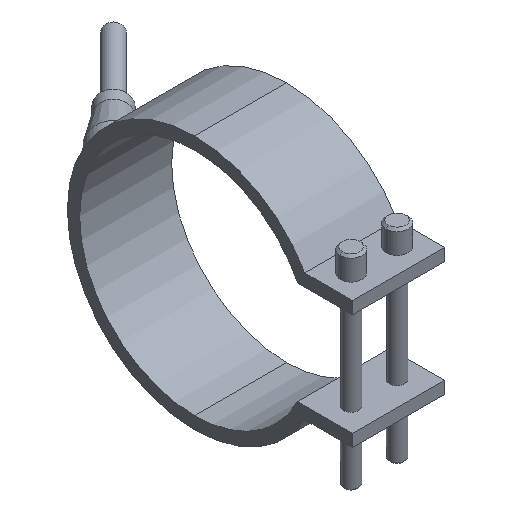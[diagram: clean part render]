
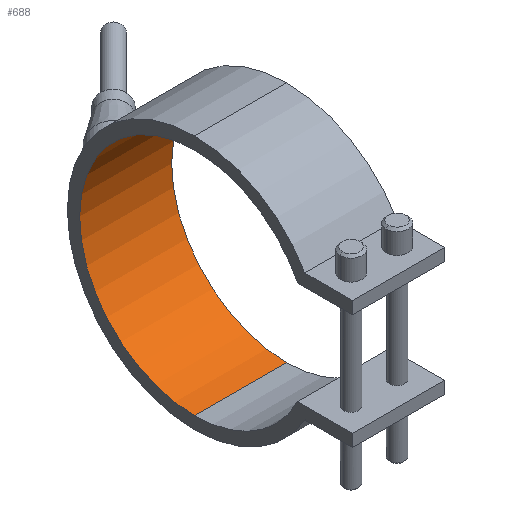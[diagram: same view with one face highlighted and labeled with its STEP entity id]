
A CAD part, isometric view. The second image highlights one B-rep face of the part: STEP entity #688.
In plain terms, the highlighted cylindrical face has radius 37.5 mm (diameter 75 mm), a partial arc.
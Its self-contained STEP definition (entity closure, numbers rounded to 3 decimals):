
#358=CARTESIAN_POINT('Vertex',(15.,0.,37.5)) ;
#363=CARTESIAN_POINT('Axis2P3D Location',(15.,0.,0.)) ;
#367=CARTESIAN_POINT('Vertex',(15.,0.,-37.5)) ;
#474=CARTESIAN_POINT('Vertex',(-15.,0.,-37.5)) ;
#477=CARTESIAN_POINT('Axis2P3D Location',(-15.,0.,0.)) ;
#481=CARTESIAN_POINT('Vertex',(-15.,0.,37.5)) ;
#660=CARTESIAN_POINT('Line Origine',(15.,0.,37.5)) ;
#672=CARTESIAN_POINT('Axis2P3D Location',(15.,0.,0.)) ;
#677=CARTESIAN_POINT('Line Origine',(15.,0.,-37.5)) ;
#364=DIRECTION('Axis2P3D Direction',(1.,0.,0.)) ;
#478=DIRECTION('Axis2P3D Direction',(1.,0.,0.)) ;
#661=DIRECTION('Vector Direction',(1.,0.,0.)) ;
#673=DIRECTION('Axis2P3D Direction',(1.,0.,-0.)) ;
#674=DIRECTION('Axis2P3D XDirection',(0.,0.,-1.)) ;
#678=DIRECTION('Vector Direction',(1.,0.,0.)) ;
#365=AXIS2_PLACEMENT_3D('Circle Axis2P3D',#363,#364,$) ;
#479=AXIS2_PLACEMENT_3D('Circle Axis2P3D',#477,#478,$) ;
#675=AXIS2_PLACEMENT_3D('Cylinder Axis2P3D',#672,#673,#674) ;
#683=ORIENTED_EDGE('',*,*,#369,.T.) ;
#684=ORIENTED_EDGE('',*,*,#664,.T.) ;
#685=ORIENTED_EDGE('',*,*,#483,.F.) ;
#686=ORIENTED_EDGE('',*,*,#681,.T.) ;
#662=VECTOR('Line Direction',#661,1.) ;
#679=VECTOR('Line Direction',#678,1.) ;
#688=ADVANCED_FACE('29075030',(#687),#676,.F.) ;
#366=CIRCLE('generated circle',#365,37.5) ;
#480=CIRCLE('generated circle',#479,37.5) ;
#676=CYLINDRICAL_SURFACE('generated cylinder',#675,37.5) ;
#369=EDGE_CURVE('',#368,#359,#366,.T.) ;
#483=EDGE_CURVE('',#475,#482,#480,.T.) ;
#664=EDGE_CURVE('',#359,#482,#663,.F.) ;
#681=EDGE_CURVE('',#475,#368,#680,.T.) ;
#682=EDGE_LOOP('',(#683,#684,#685,#686)) ;
#687=FACE_OUTER_BOUND('',#682,.T.) ;
#663=LINE('Line',#660,#662) ;
#680=LINE('Line',#677,#679) ;
#359=VERTEX_POINT('',#358) ;
#368=VERTEX_POINT('',#367) ;
#475=VERTEX_POINT('',#474) ;
#482=VERTEX_POINT('',#481) ;
